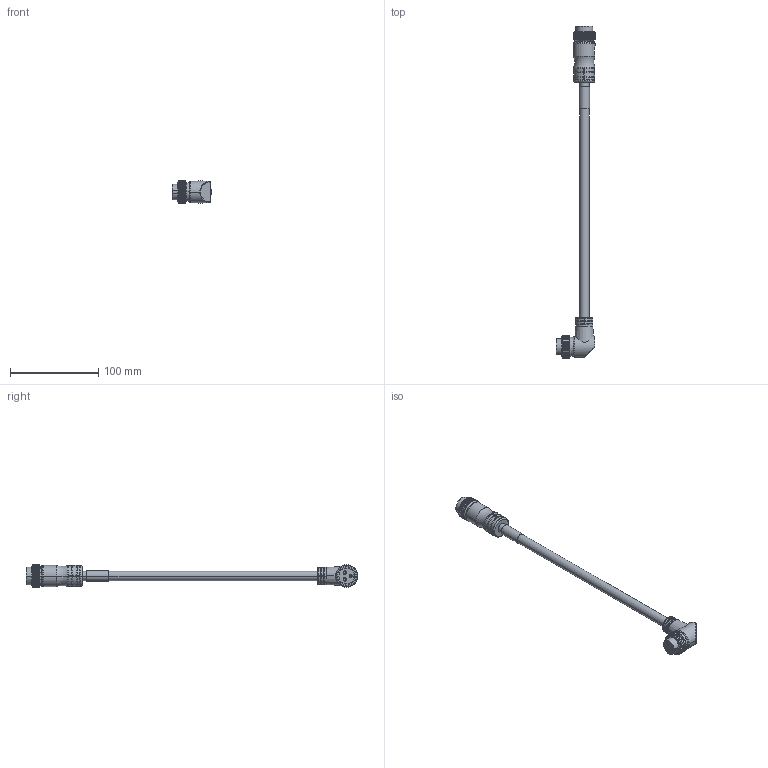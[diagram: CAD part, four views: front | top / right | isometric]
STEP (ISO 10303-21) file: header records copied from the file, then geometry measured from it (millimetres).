
FILE_DESCRIPTION((''),'2;1');
FILE_NAME('889N-R3AFNU-6F','2014-03-05T',('20019289'),('Rockwell Automation'),'PRO/ENGINEER BY PARAMETRIC TECHNOLOGY CORPORATION, 2010140','PRO/ENGINEER BY PARAMETRIC TECHNOLOGY CORPORATION, 2010140','');
FILE_SCHEMA(('CONFIG_CONTROL_DESIGN'));
Length unit declared in the file: inch
Products named in the file (1): 889N-R3AFNU-6F
Bounding box: 44.7 x 376.05 x 25.4 mm (x, y, z)
Volume: 71899.8 mm3; surface area: 24982.1 mm2
Topology: 1 solids, 1 shells, 918 faces, 2185 edges, 1291 vertices
Faces by surface type: plane 453, cylinder 332, cone 94, torus 35, bspline 2, sphere 2
Entity records: 27409 total; most frequent: CARTESIAN_POINT 6034, DIRECTION 4702, ORIENTED_EDGE 4366, EDGE_CURVE 2183, AXIS2_PLACEMENT_3D 1818, VERTEX_POINT 1291, VECTOR 1066, LINE 1066
